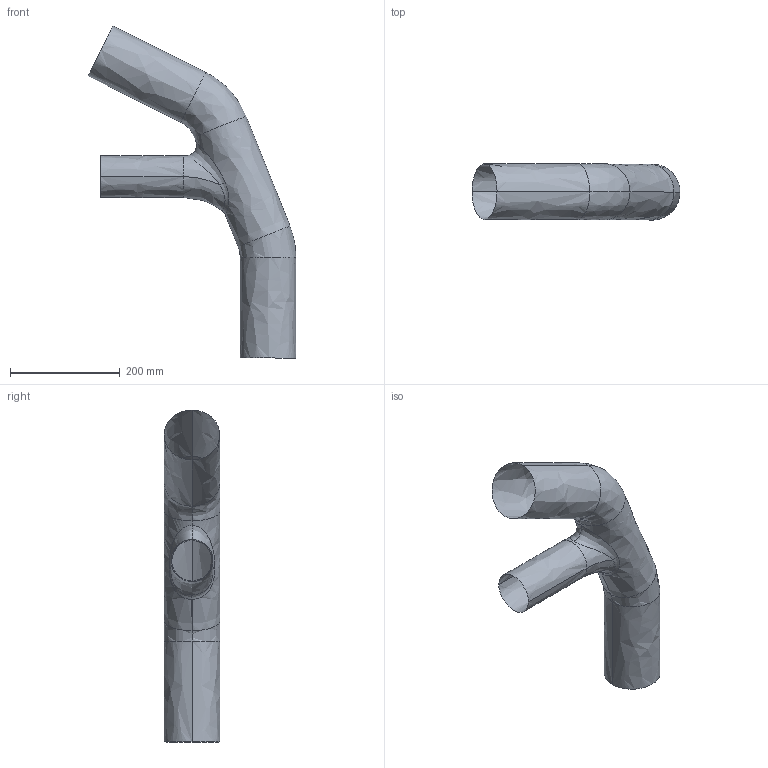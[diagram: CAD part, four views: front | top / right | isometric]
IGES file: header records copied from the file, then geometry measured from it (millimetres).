
Start section: /COM,ANSYS RELEASE  5.5    UP19980731 BTA6    10:54:15    08/06/1998 /NOPR /PREP7 /TITLE, BFUNIF,TEMP,_TINY KBC,-1 KUSE,0 TIME,0. TREF,0. ALPHAD,0. BETAD,0. DMPRAT,0. CRPLIM,0.100000000 NCNV,1,0.,0,0.,0. NEQIT,0 ERESX,DEFA ACEL,0.,0.,0. OMEGA,0.,0.,0.,0 DOMEGA,0.,0.,0. CGLOC,0.,0.,0. CGOMEGA,0.,0.,0. DCGOMG,0.,0.,0. IRLF,0 /AUX15 IOPTN,YES,DEFA /GOPR !_END_OF_START
Global section: file name: file.iges; native system: ANSYS; preprocessor:   5.5BTA6  UP19980731; date: 980806.105415
Bounding box: 378.32 x 101.6 x 604.24 mm (x, y, z)
Surface area: 267620.5 mm2 (no closed solid volume)
Topology: 0 solids, 0 shells, 18 faces, 136 edges, 136 vertices
Faces by surface type: bspline 18
